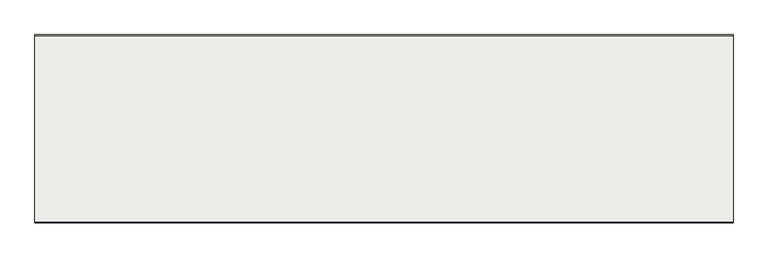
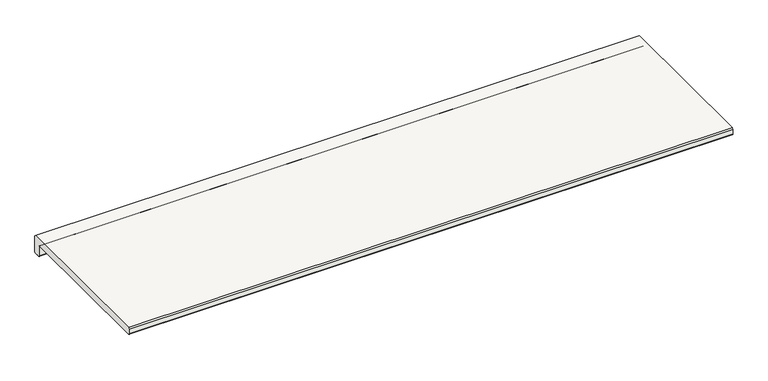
"""IFC4 building model written with IfcOpenShell, lengths in millimetres: slab geometry, ROSA GRES_L62 : Pieza L62_Mistery_Grey_Anti-Slip."""

from ifc_helpers import new_model, si_unit, point, frame, frame_2d, origin, place, context, project, spatial, polyline, circle_curve, trimmed, segment, composite_curve, outline, extrude, source, transform, mapped, element, save


def slab_d7be1ad2(model_context):
    return source(origin(), model_context, "Body", "SweptSolid", [
        extrude(outline(composite_curve([segment(trimmed(circle_curve(frame_2d((-12.1001991, -35.1001991)), 1.8998009), [point((-12.1001991, -37.0))], [point((-14.0, -35.1001991))], False, "CARTESIAN"), True, "CONTINUOUS"), segment(polyline([(-14.0, -35.1001991), (-14.0, -16.5836242)]), True, "CONTINUOUS"), segment(trimmed(circle_curve(frame_2d((-16.6422322, -16.5836242)), 2.6422322), [point((-14.0, -16.5836242))], [point((-16.6422322, -13.9413919))], True, "CARTESIAN"), True, "CONTINUOUS"), segment(polyline([(-16.6422322, -13.9413919), (-315.5234432, -13.9413919)]), True, "CONTINUOUS"), segment(trimmed(circle_curve(frame_2d((-315.5234432, -12.4648352)), 1.4765568), [point((-315.5234432, -13.9413919))], [point((-317.0, -12.4648352))], False, "CARTESIAN"), True, "CONTINUOUS"), segment(polyline([(-317.0, -12.4648352), (-317.0, -2.5), (-315.5, 0.0), (-2.5, 0.0), (0.0, -2.5), (0.0, -34.5)]), True, "CONTINUOUS"), segment(trimmed(circle_curve(frame_2d((-2.5, -34.5)), 2.5), [point((0.0, -34.5))], [point((-2.5, -37.0))], False, "CARTESIAN"), True, "CONTINUOUS"), segment(polyline([(-2.5, -37.0), (-5.422949, -37.0)]), True, "CONTINUOUS"), segment(trimmed(circle_curve(frame_2d((-7.4142134, -37.0)), 1.9912643), [point((-5.422949, -37.0))], [point((-9.4054777, -37.0))], True, "CARTESIAN"), True, "CONTINUOUS"), segment(polyline([(-9.4054777, -37.0), (-12.1001991, -37.0)]), True, "CONTINUOUS")], self_intersect=False)), frame((0.0, 0.0, 0.0), z_axis=(1.0, 0.0, 0.0), x_axis=(0.0, 1.0, 0.0)), (0.0, 0.0, 1.0), 1175.0),
    ])


if __name__ == "__main__":
    model = new_model("IFC4")
    model_context = context("Model", 3, world=origin())
    ifc_project = project(units=[si_unit("LENGTHUNIT", "METRE", prefix="MILLI")], contexts=[model_context])
    site = spatial("IfcSite", under=ifc_project)
    building = spatial("IfcBuilding", under=site)
    placement = place(None, origin())
    slab_shape = slab_d7be1ad2(model_context)
    element("IfcSlab", 1, ObjectType="ROSA GRES_L62 : Pieza L62_Mistery_Grey_Anti-Slip", at=placement, inside=building, context=model_context, shape_type="MappedRepresentation", body=[
        mapped(slab_shape, transform((0.0, 0.0, 0.0), x_axis=(1.0, 0.0, 0.0), y_axis=(0.0, 1.0, 0.0), z_axis=(0.0, 0.0, 1.0))),
    ])
    save(model, "model.ifc")
